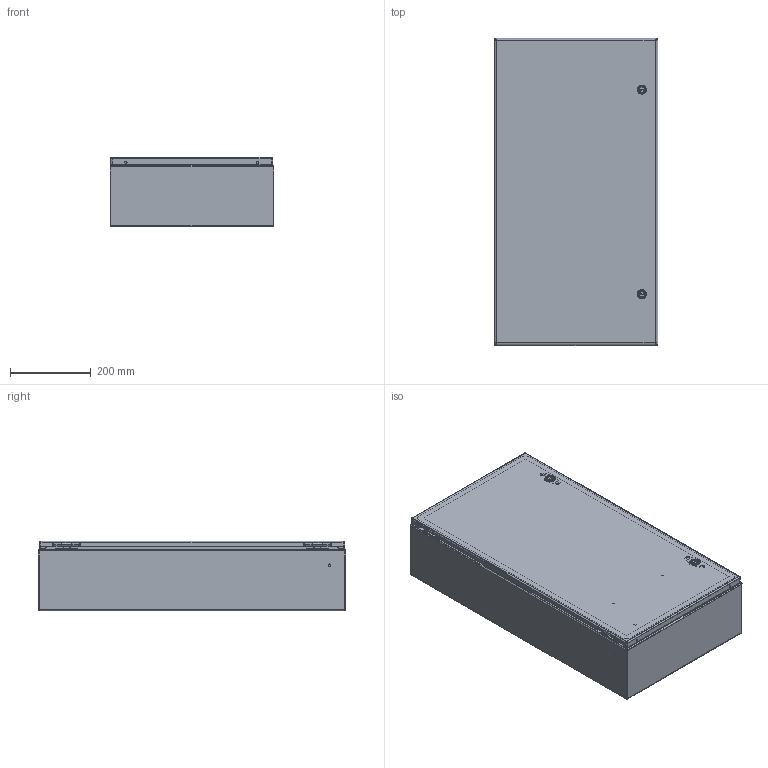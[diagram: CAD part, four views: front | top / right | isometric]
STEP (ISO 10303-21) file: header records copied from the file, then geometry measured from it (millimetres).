
FILE_DESCRIPTION (( 'STEP AP203' ), '1' );
FILE_NAME ('29405.step', '2015-03-30T06:14:08', ( '' ), ( '' ), 'SwSTEP 2.0', 'SolidWorks 2010', '' );
FILE_SCHEMA (( 'CONFIG_CONTROL_DESIGN' ));
Length unit declared in the file: inch
Products named in the file (24): 29405; 89116870; 89116869_default; 23271001_After Weld; 89116866_assy; 89116865_weldment; 89116864; 99401225; 87931362_87931362; 64101001; 64201001; 87541994_Installed Height; 87541995; 64202001; 64210001; 64203001; 89116867; 87543027; 89076399; 89076193; 89056623; 87929507; 87929767; 87929769_Installed on Pin
Assembly tree (32 placements, depth 4):
  29405
    87543027  x2
    89076399  x2
      89056623
      89076193
    87929507  x2
      87929769_Installed on Pin
      87929767
    89116870
      89116869_default
      23271001_After Weld  x4
      99401225
    89116866_assy
      89116867
      64101001  x2
        87541995
        64203001
        64210001
        64202001
        87541994_Installed Height
        64201001
      89116865_weldment
        87931362_87931362  x2
        99401225
        89116864
Bounding box: 406.4 x 762 x 173.1 mm (x, y, z)
Volume: 1831232.3 mm3; surface area: 2272933.7 mm2
Topology: 35 solids, 35 shells, 1541 faces, 3794 edges, 2344 vertices
Faces by surface type: plane 631, cylinder 510, bspline 224, torus 104, cone 64, sphere 8
Entity records: 34309 total; most frequent: CARTESIAN_POINT 9989, ORIENTED_EDGE 4564, DIRECTION 4346, EDGE_CURVE 2282, AXIS2_PLACEMENT_3D 1551, VERTEX_POINT 1404, LINE 1244, VECTOR 1244
